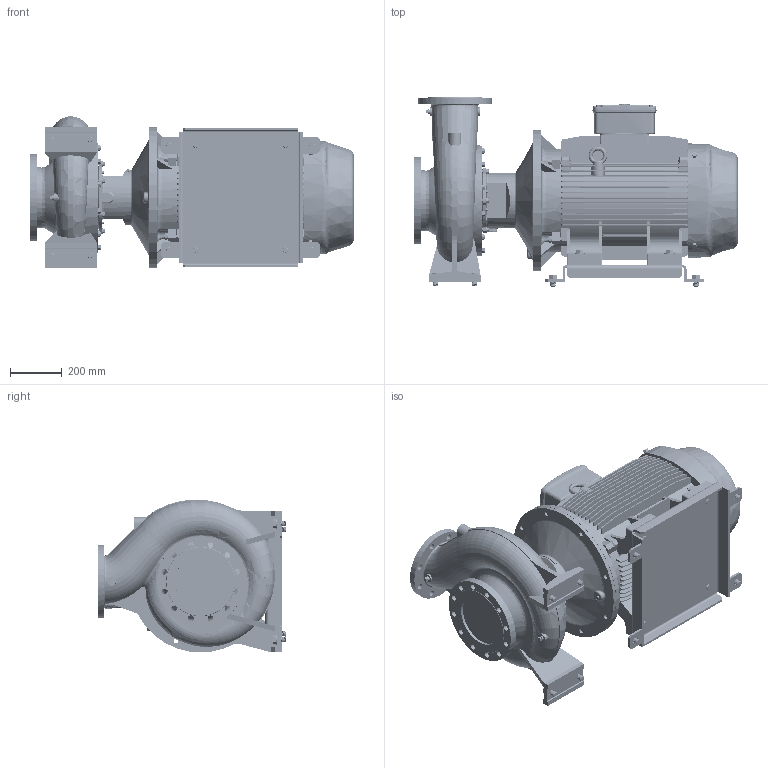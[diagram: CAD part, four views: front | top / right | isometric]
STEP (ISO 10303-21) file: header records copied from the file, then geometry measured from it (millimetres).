
FILE_DESCRIPTION (( 'STEP AP214' ), '1' );
FILE_NAME ('GSD4 150-315_55 & 75_(250SM)_W21.STEP', '2026-07-01T02:32:38', ( '' ), ( '' ), 'SwSTEP 2.0', 'SolidWorks 2024', '' );
FILE_SCHEMA (( 'AUTOMOTIVE_DESIGN' ));
Length unit declared in the file: millimetre
Products named in the file (11): Parametric bolt and washer_SFT-A403B; 150-315-250S_M_ﾃﾞﾌｫﾙﾄ; CGS11-5292; Parametric bolt_SFT-A403B; Parametric bolt_SFT-A399B; GSD4 150-315_55 & 75_(250SM)_W21; Parametric bolt_SFT-A411B; Parametric Flat Washer_M20; 250S_M4P IE3_W21T_B35; Parametric bolt and washer_SFT-A399B; Parametric bolt and washer_SFT-A411B
Assembly tree (21 placements, depth 3):
  GSD4 150-315_55 & 75_(250SM)_W21
    150-315-250S_M_ﾃﾞﾌｫﾙﾄ
    250S_M4P IE3_W21T_B35
    CGS11-5292
    Parametric bolt and washer_SFT-A403B  x4
      Parametric bolt_SFT-A403B
      Parametric Flat Washer_M20
    Parametric bolt and washer_SFT-A411B  x4
      Parametric bolt_SFT-A411B
      Parametric Flat Washer_M20
    Parametric bolt and washer_SFT-A399B  x4
      Parametric bolt_SFT-A399B
      Parametric Flat Washer_M20
Bounding box: 1260.5 x 733 x 593.47 mm (x, y, z)
Volume: 173585909 mm3; surface area: 6563290.7 mm2
Topology: 30 solids, 35 shells, 4360 faces, 11533 edges, 7373 vertices
Faces by surface type: plane 1702, cylinder 1508, cone 509, bspline 335, torus 288, sphere 18
Entity records: 190351 total; most frequent: CARTESIAN_POINT 102399, ORIENTED_EDGE 19448, DIRECTION 17169, EDGE_CURVE 9724, AXIS2_PLACEMENT_3D 6258, VERTEX_POINT 6206, VECTOR 4653, LINE 4653
